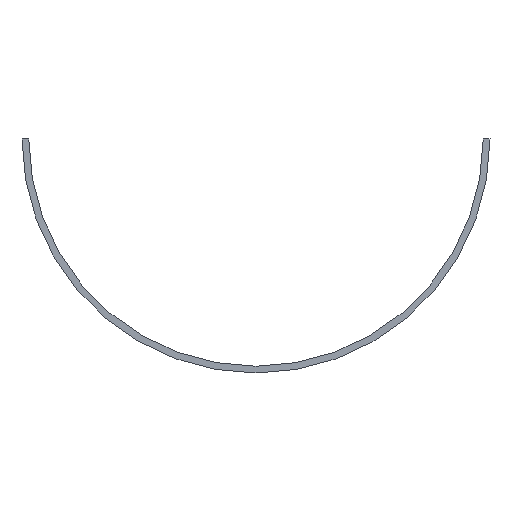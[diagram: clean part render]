
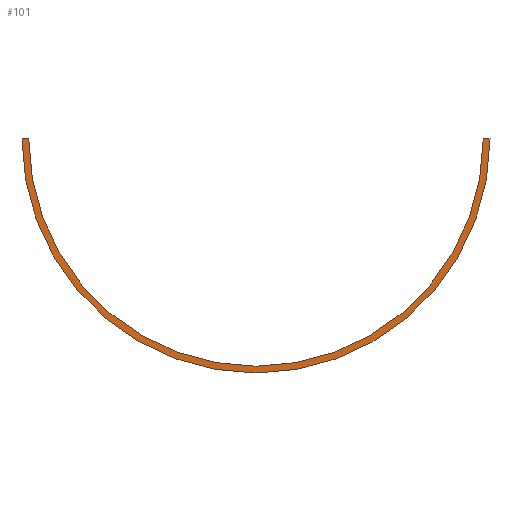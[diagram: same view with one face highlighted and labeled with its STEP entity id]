
A CAD part, front view. The second image highlights one B-rep face of the part: STEP entity #101.
In plain terms, the highlighted planar face has unit normal (0, -1, 0).
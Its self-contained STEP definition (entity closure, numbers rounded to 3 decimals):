
#14=FACE_OUTER_BOUND($,#20,.T.);
#20=EDGE_LOOP($,(#66,#67,#68,#69));
#26=CIRCLE($,#111,25.);
#27=CIRCLE($,#112,25.75);
#30=LINE($,#154,#38);
#31=LINE($,#158,#39);
#38=VECTOR($,#124,0.75);
#39=VECTOR($,#127,0.75);
#46=VERTEX_POINT($,#152);
#47=VERTEX_POINT($,#153);
#48=VERTEX_POINT($,#155);
#49=VERTEX_POINT($,#157);
#54=EDGE_CURVE($,#46,#47,#30,.T.);
#55=EDGE_CURVE($,#48,#46,#26,.T.);
#56=EDGE_CURVE($,#49,#48,#31,.T.);
#57=EDGE_CURVE($,#47,#49,#27,.T.);
#66=ORIENTED_EDGE($,*,*,#54,.F.);
#67=ORIENTED_EDGE($,*,*,#55,.F.);
#68=ORIENTED_EDGE($,*,*,#56,.F.);
#69=ORIENTED_EDGE($,*,*,#57,.F.);
#90=PLANE($,#110);
#101=ADVANCED_FACE($,(#14),#90,.F.);
#110=AXIS2_PLACEMENT_3D($,#151,#122,#123);
#111=AXIS2_PLACEMENT_3D($,#156,#125,#126);
#112=AXIS2_PLACEMENT_3D($,#159,#128,#129);
#122=DIRECTION('center_axis',(0.,1.,0.));
#123=DIRECTION('ref_axis',(0.,0.,1.));
#124=DIRECTION($,(1.,0.,0.));
#125=DIRECTION('center_axis',(0.,-1.,0.));
#126=DIRECTION('ref_axis',(-1.,0.,0.));
#127=DIRECTION($,(1.,0.,0.));
#128=DIRECTION('center_axis',(0.,1.,0.));
#129=DIRECTION('ref_axis',(1.,0.,0.));
#151=CARTESIAN_POINT('Origin',(0.,-1500.,-14.432));
#152=CARTESIAN_POINT('',(25.,-1500.,0.));
#153=CARTESIAN_POINT('',(25.75,-1500.,0.));
#154=CARTESIAN_POINT($,(25.,-1500.,0.));
#155=CARTESIAN_POINT('',(-25.,-1500.,0.));
#156=CARTESIAN_POINT('Origin',(0.,-1500.,0.));
#157=CARTESIAN_POINT('',(-25.75,-1500.,0.));
#158=CARTESIAN_POINT($,(-25.75,-1500.,0.));
#159=CARTESIAN_POINT('Origin',(0.,-1500.,0.));
